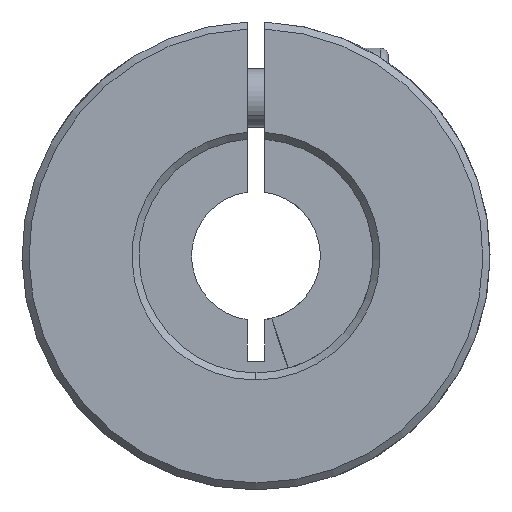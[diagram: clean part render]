
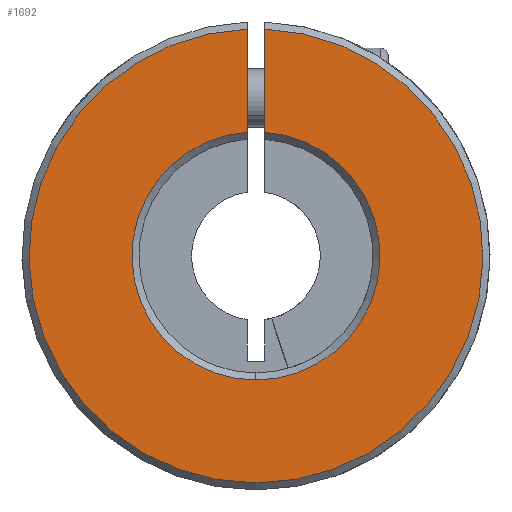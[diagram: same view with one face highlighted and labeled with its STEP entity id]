
A CAD part, front view. The second image highlights one B-rep face of the part: STEP entity #1692.
In plain terms, the highlighted planar face has unit normal (0, -1, 0).
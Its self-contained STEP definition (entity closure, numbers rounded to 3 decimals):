
#34 = DIRECTION ( 'NONE',  ( 0., 0., 1. ) ) ;
#35 = CIRCLE ( 'NONE', #5071, 19.4 ) ;
#73 = VERTEX_POINT ( 'NONE', #3061 ) ;
#159 = CARTESIAN_POINT ( 'NONE',  ( 0., -25., 0. ) ) ;
#355 = DIRECTION ( 'NONE',  ( 0., 0., -1. ) ) ;
#372 = VERTEX_POINT ( 'NONE', #3872 ) ;
#413 = EDGE_CURVE ( 'NONE', #73, #2919, #3786, .T. ) ;
#434 = DIRECTION ( 'NONE',  ( 0., 0., 1. ) ) ;
#769 = LINE ( 'NONE', #5019, #4041 ) ;
#1082 = VERTEX_POINT ( 'NONE', #4380 ) ;
#1303 = CARTESIAN_POINT ( 'NONE',  ( 0., -25., 0. ) ) ;
#1361 = DIRECTION ( 'NONE',  ( 0., 0., 1. ) ) ;
#1458 = CARTESIAN_POINT ( 'NONE',  ( -0.75, -25., -9. ) ) ;
#1692 = ADVANCED_FACE ( 'NONE', ( #1939 ), #2926, .F. ) ;
#1711 = CARTESIAN_POINT ( 'NONE',  ( 0.75, -25., 10.573 ) ) ;
#1889 = CIRCLE ( 'NONE', #5887, 10.6 ) ;
#1939 = FACE_OUTER_BOUND ( 'NONE', #4043, .T. ) ;
#2062 = CIRCLE ( 'NONE', #4321, 10.6 ) ;
#2183 = ORIENTED_EDGE ( 'NONE', *, *, #2792, .T. ) ;
#2216 = VERTEX_POINT ( 'NONE', #1711 ) ;
#2719 = EDGE_CURVE ( 'NONE', #2216, #1082, #2062, .T. ) ;
#2771 = DIRECTION ( 'NONE',  ( 0., 1., 0. ) ) ;
#2792 = EDGE_CURVE ( 'NONE', #2919, #372, #35, .T. ) ;
#2867 = DIRECTION ( 'NONE',  ( 0., 1., 0. ) ) ;
#2919 = VERTEX_POINT ( 'NONE', #3805 ) ;
#2926 = PLANE ( 'NONE',  #4324 ) ;
#3061 = CARTESIAN_POINT ( 'NONE',  ( -0.75, -25., 10.573 ) ) ;
#3175 = DIRECTION ( 'NONE',  ( 0., -1., 0. ) ) ;
#3237 = DIRECTION ( 'NONE',  ( 0., 1., 0. ) ) ;
#3336 = DIRECTION ( 'NONE',  ( 0., 0., 1. ) ) ;
#3366 = ORIENTED_EDGE ( 'NONE', *, *, #2719, .T. ) ;
#3385 = ORIENTED_EDGE ( 'NONE', *, *, #5979, .T. ) ;
#3432 = EDGE_CURVE ( 'NONE', #372, #2216, #769, .T. ) ;
#3786 = LINE ( 'NONE', #1458, #5108 ) ;
#3805 = CARTESIAN_POINT ( 'NONE',  ( -0.75, -25., 19.385 ) ) ;
#3872 = CARTESIAN_POINT ( 'NONE',  ( 0.75, -25., 19.385 ) ) ;
#3902 = ORIENTED_EDGE ( 'NONE', *, *, #3432, .T. ) ;
#4041 = VECTOR ( 'NONE', #355, 1000. ) ;
#4043 = EDGE_LOOP ( 'NONE', ( #3902, #3366, #3385, #4232, #2183 ) ) ;
#4232 = ORIENTED_EDGE ( 'NONE', *, *, #413, .T. ) ;
#4321 = AXIS2_PLACEMENT_3D ( 'NONE', #1303, #2771, #1361 ) ;
#4324 = AXIS2_PLACEMENT_3D ( 'NONE', #159, #2867, #34 ) ;
#4380 = CARTESIAN_POINT ( 'NONE',  ( 0., -25., -10.6 ) ) ;
#5015 = DIRECTION ( 'NONE',  ( 0., 0., 1. ) ) ;
#5019 = CARTESIAN_POINT ( 'NONE',  ( 0.75, -25., -9. ) ) ;
#5042 = CARTESIAN_POINT ( 'NONE',  ( 0., -25., 0. ) ) ;
#5071 = AXIS2_PLACEMENT_3D ( 'NONE', #5042, #3175, #5015 ) ;
#5108 = VECTOR ( 'NONE', #3336, 1000. ) ;
#5887 = AXIS2_PLACEMENT_3D ( 'NONE', #5901, #3237, #434 ) ;
#5901 = CARTESIAN_POINT ( 'NONE',  ( 0., -25., 0. ) ) ;
#5979 = EDGE_CURVE ( 'NONE', #1082, #73, #1889, .T. ) ;
